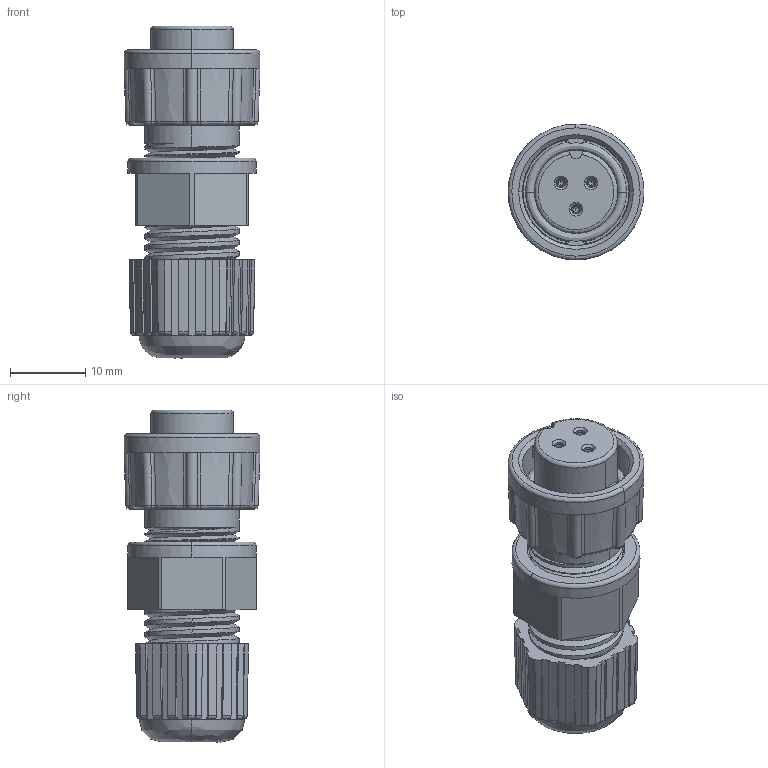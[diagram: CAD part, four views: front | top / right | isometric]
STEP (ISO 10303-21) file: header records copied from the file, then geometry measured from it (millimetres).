
FILE_DESCRIPTION (( 'STEP AP203' ), '1' );
FILE_NAME ('868-03B-203KIT.STEP', '2024-06-13T20:13:18', ( '' ), ( '' ), 'SwSTEP 2.0', 'SolidWorks 2020', '' );
FILE_SCHEMA (( 'CONFIG_CONTROL_DESIGN' ));
Length unit declared in the file: millimetre
Products named in the file (1): 868-03B-203KIT
Bounding box: 18 x 18 x 44 mm (x, y, z)
Volume: 5807.8 mm3; surface area: 6690.1 mm2
Topology: 2 solids, 2 shells, 539 faces, 1448 edges, 918 vertices
Faces by surface type: plane 206, cylinder 168, bspline 95, cone 70
Entity records: 29761 total; most frequent: CARTESIAN_POINT 17531, ORIENTED_EDGE 2872, DIRECTION 2102, EDGE_CURVE 1436, VERTEX_POINT 918, AXIS2_PLACEMENT_3D 810, EDGE_LOOP 564, ADVANCED_FACE 539
